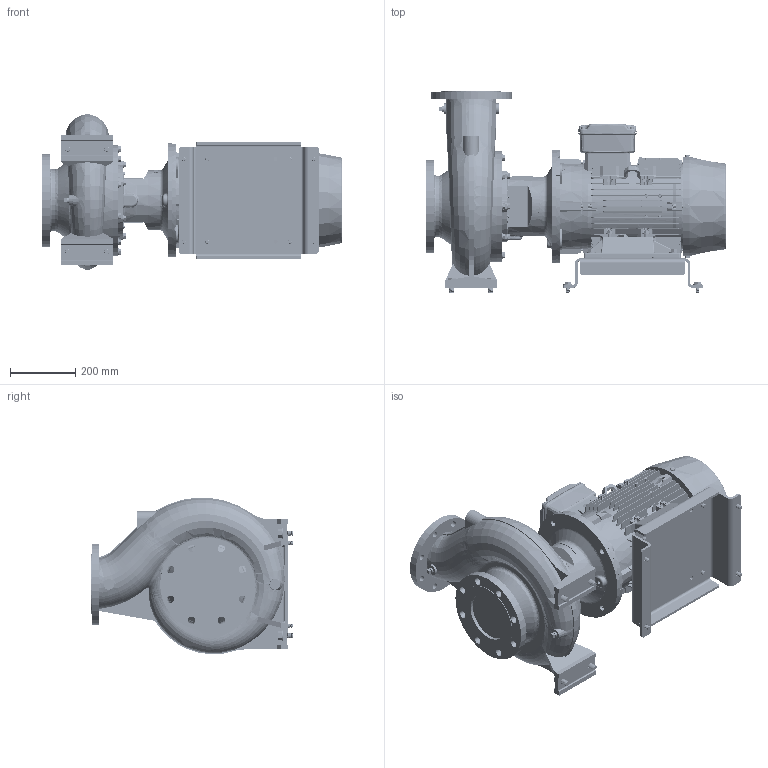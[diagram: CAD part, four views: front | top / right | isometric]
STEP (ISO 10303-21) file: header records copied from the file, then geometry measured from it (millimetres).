
FILE_DESCRIPTION (( 'STEP AP214' ), '1' );
FILE_NAME ('GSD4 125-250_11.0 & 15.0_(160ML)_W21.STEP', '2026-07-01T05:11:50', ( '' ), ( '' ), 'SwSTEP 2.0', 'SolidWorks 2024', '' );
FILE_SCHEMA (( 'AUTOMOTIVE_DESIGN' ));
Length unit declared in the file: millimetre
Products named in the file (12): CGS11-5254; Parametric bolt_SFT-A297B; Parametric bolt and washer_SFT-A303B; GSD4 125-250_11.0 & 15.0_(160ML)_W21; Parametric bolt_SFT-A303B; 160M_L_ALIE3_W21T_B35; Parametric bolt and washer_SFT-A353B; Parametric Flat Washer_M12; Parametric bolt_SFT-A353B; Parametric Flat Washer_M16; Parametric bolt and washer_SFT-A297B; 125-250-160M_L
Assembly tree (21 placements, depth 3):
  GSD4 125-250_11.0 & 15.0_(160ML)_W21
    125-250-160M_L
    CGS11-5254
    Parametric bolt and washer_SFT-A353B  x4
      Parametric bolt_SFT-A353B
      Parametric Flat Washer_M16
    Parametric bolt and washer_SFT-A297B  x4
      Parametric bolt_SFT-A297B
      Parametric Flat Washer_M12
    Parametric bolt and washer_SFT-A303B  x4
      Parametric bolt_SFT-A303B
      Parametric Flat Washer_M12
    160M_L_ALIE3_W21T_B35
Bounding box: 924.3 x 621 x 481.27 mm (x, y, z)
Volume: 66471033.9 mm3; surface area: 3757429.7 mm2
Topology: 63 solids, 69 shells, 6463 faces, 16686 edges, 10785 vertices
Faces by surface type: plane 3816, cylinder 1331, cone 619, bspline 458, torus 221, sphere 18
Entity records: 261597 total; most frequent: CARTESIAN_POINT 123175, ORIENTED_EDGE 30338, DIRECTION 25668, EDGE_CURVE 15169, VERTEX_POINT 9816, VECTOR 9584, LINE 9584, AXIS2_PLACEMENT_3D 8042
